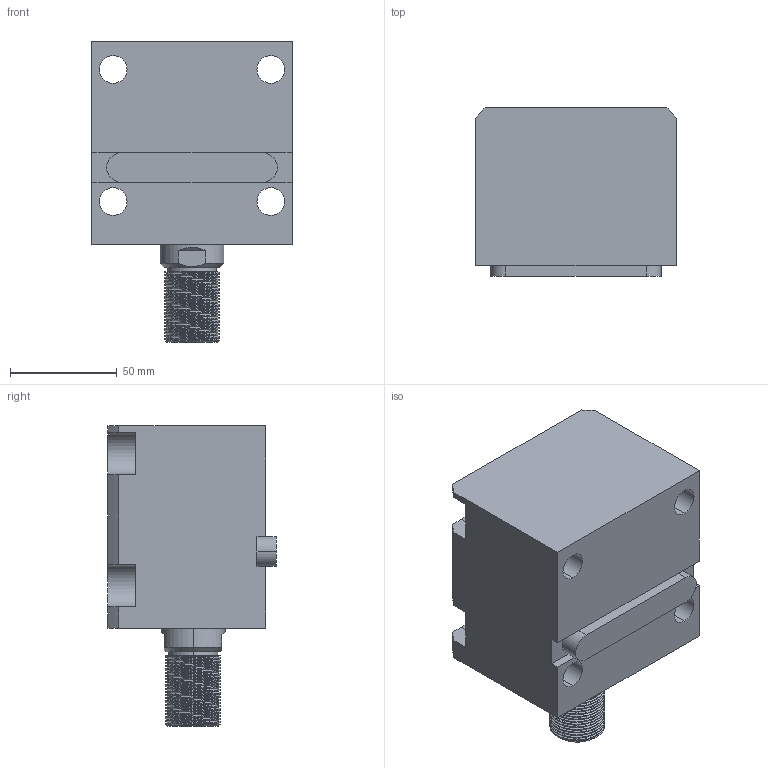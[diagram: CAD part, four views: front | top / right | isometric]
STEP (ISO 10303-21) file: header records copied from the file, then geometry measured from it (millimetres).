
FILE_DESCRIPTION (( 'STEP AP203' ), '1' );
FILE_NAME ('CHTB-LA50-35W.STEP', '2018-05-18T00:34:34', ( '' ), ( '' ), 'SwSTEP 2.0', 'SolidWorks 2015', '' );
FILE_SCHEMA (( 'CONFIG_CONTROL_DESIGN' ));
Length unit declared in the file: millimetre
Products named in the file (4): CHTM-SDMA50QG; CHTB-LA50-35W; 掛极LA50-35W; 活塞杆LA50-35W
Assembly tree (3 placements, depth 2):
  CHTB-LA50-35W
    掛极LA50-35W
    活塞杆LA50-35W
    CHTM-SDMA50QG
Bounding box: 94 x 79 x 141 mm (x, y, z)
Volume: 587247 mm3; surface area: 107165.8 mm2
Topology: 3 solids, 3 shells, 244 faces, 670 edges, 447 vertices
Faces by surface type: cylinder 136, plane 55, cone 21, bspline 16, torus 16
Entity records: 15046 total; most frequent: CARTESIAN_POINT 8903, ORIENTED_EDGE 1332, DIRECTION 1073, EDGE_CURVE 666, VERTEX_POINT 447, AXIS2_PLACEMENT_3D 416, EDGE_LOOP 277, FACE_OUTER_BOUND 244
